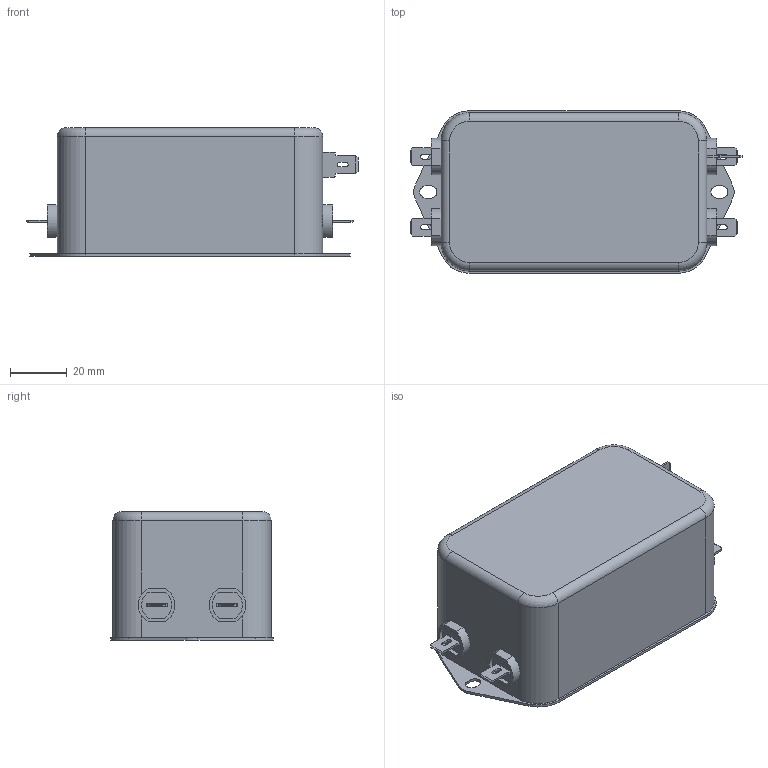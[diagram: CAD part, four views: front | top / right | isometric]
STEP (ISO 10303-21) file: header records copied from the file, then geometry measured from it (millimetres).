
FILE_DESCRIPTION((''),'2;1');
FILE_NAME('L:\INVENTOR_Projektedaten\HousingDesign\FN2080-6-06.stp','2012-10-08T07:53:01',('Samuel.Meier'),(''),'Autodesk Inventor 2010','Autodesk Inventor 2010','');
FILE_SCHEMA(('AUTOMOTIVE_DESIGN { 1 2 10303 214 0 1 1 1 }'));
Length unit declared in the file: millimetre
Products named in the file (1): Bauteil4
Bounding box: 117.5 x 57.5 x 45.4 mm (x, y, z)
Volume: 236548.9 mm3; surface area: 25883.7 mm2
Topology: 5 solids, 5 shells, 356 faces, 972 edges, 636 vertices
Faces by surface type: bspline 171, plane 117, cylinder 64, torus 4
Entity records: 12934 total; most frequent: CARTESIAN_POINT 3918, ORIENTED_EDGE 1944, DIRECTION 1516, EDGE_CURVE 972, VECTOR 672, LINE 672, VERTEX_POINT 636, AXIS2_PLACEMENT_3D 422
